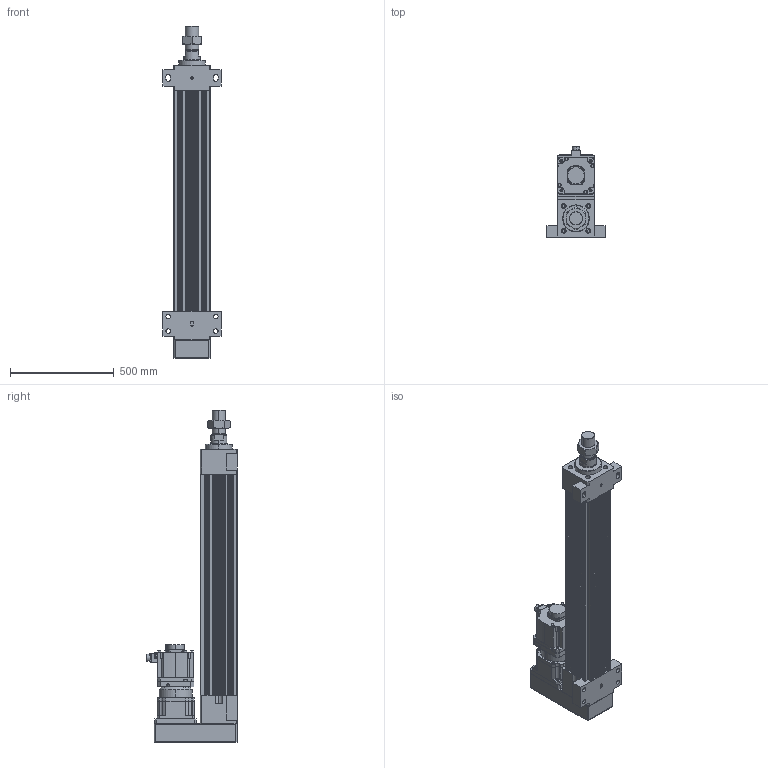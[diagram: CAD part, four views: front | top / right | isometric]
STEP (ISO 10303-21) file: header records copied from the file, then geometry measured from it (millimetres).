
FILE_DESCRIPTION (( 'STEP AP203' ), '1' );
FILE_NAME ('HES180HS-P750-W050G00-M-FFB.STEP', '2023-02-01T06:56:49', ( 'tms' ), ( '' ), 'SwSTEP 2.0', 'SolidWorks 2013', '' );
FILE_SCHEMA (( 'CONFIG_CONTROL_DESIGN' ));
Length unit declared in the file: millimetre
Products named in the file (9): AB180-003[HG-SR702B]; HES180HS-P750-W050G00-M-FFB; M64X2.0P; HG-SR502; AB1801; HES180 ROD M ST750; P0403600401; P1301600001; HES180-P750-G180-FFB
Assembly tree (8 placements, depth 3):
  HES180HS-P750-W050G00-M-FFB
    HES180-P750-G180-FFB
    HES180 ROD M ST750
    M64X2.0P
    AB180-003[HG-SR702B]
      AB1801
      P1301600001
      P0403600401
    HG-SR502
Bounding box: 280 x 438.85 x 1602 mm (x, y, z)
Volume: 33887964.6 mm3; surface area: 3049845 mm2
Topology: 4 solids, 19 shells, 1446 faces, 3761 edges, 2443 vertices
Faces by surface type: cylinder 668, plane 567, cone 144, bspline 63, torus 4
Entity records: 53114 total; most frequent: CARTESIAN_POINT 16078, DIRECTION 7777, ORIENTED_EDGE 7426, EDGE_CURVE 3737, AXIS2_PLACEMENT_3D 2922, VERTEX_POINT 2443, LINE 1933, VECTOR 1933
